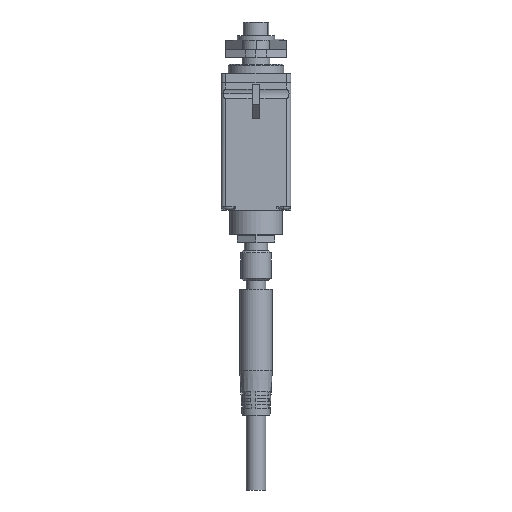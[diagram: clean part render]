
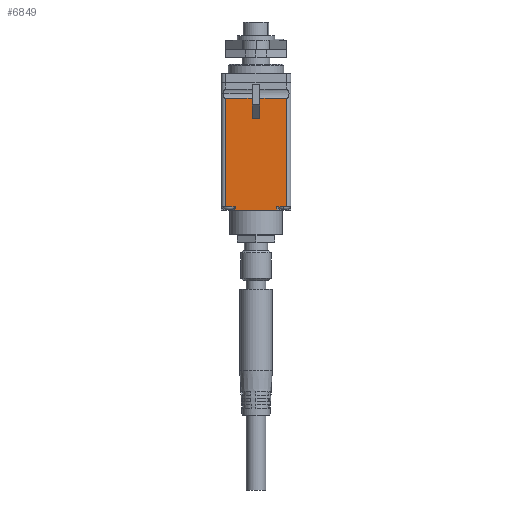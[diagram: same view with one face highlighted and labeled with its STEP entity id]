
A CAD part, front view. The second image highlights one B-rep face of the part: STEP entity #6849.
In plain terms, the highlighted planar face has unit normal (0, -1, 0).
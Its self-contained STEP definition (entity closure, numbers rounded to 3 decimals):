
#382 = EDGE_CURVE ( 'NONE', #575, #2903, #7121, .T. ) ;
#540 = DIRECTION ( 'NONE',  ( 1., 0., 0. ) ) ;
#575 = VERTEX_POINT ( 'NONE', #10025 ) ;
#715 = VERTEX_POINT ( 'NONE', #9221 ) ;
#799 = CARTESIAN_POINT ( 'NONE',  ( 0., -8.05, -29.4 ) ) ;
#861 = CARTESIAN_POINT ( 'NONE',  ( 4.5, -8.05, -29.4 ) ) ;
#936 = VERTEX_POINT ( 'NONE', #9973 ) ;
#1129 = LINE ( 'NONE', #799, #17902 ) ;
#1130 = EDGE_CURVE ( 'NONE', #16118, #10133, #16983, .T. ) ;
#1318 = VECTOR ( 'NONE', #11862, 1000. ) ;
#1411 = ORIENTED_EDGE ( 'NONE', *, *, #13768, .F. ) ;
#1470 = LINE ( 'NONE', #11180, #4260 ) ;
#1495 = VECTOR ( 'NONE', #15430, 1000. ) ;
#1550 = ORIENTED_EDGE ( 'NONE', *, *, #9988, .F. ) ;
#2252 = FACE_OUTER_BOUND ( 'NONE', #9694, .T. ) ;
#2263 = VERTEX_POINT ( 'NONE', #11733 ) ;
#2433 = CARTESIAN_POINT ( 'NONE',  ( 4.5, -8.05, -7.4 ) ) ;
#2903 = VERTEX_POINT ( 'NONE', #5059 ) ;
#3011 = DIRECTION ( 'NONE',  ( -1., 0., 0. ) ) ;
#3046 = EDGE_CURVE ( 'NONE', #715, #17188, #5490, .T. ) ;
#3076 = CARTESIAN_POINT ( 'NONE',  ( -0.85, -8.05, -9.8 ) ) ;
#3097 = VECTOR ( 'NONE', #9740, 1000. ) ;
#3112 = EDGE_CURVE ( 'NONE', #5051, #2263, #17145, .T. ) ;
#3113 = EDGE_CURVE ( 'NONE', #2903, #715, #12283, .T. ) ;
#3168 = LINE ( 'NONE', #11468, #3097 ) ;
#3404 = ORIENTED_EDGE ( 'NONE', *, *, #3113, .F. ) ;
#3782 = CARTESIAN_POINT ( 'NONE',  ( 0.85, -8.05, -5.38 ) ) ;
#3997 = EDGE_CURVE ( 'NONE', #5051, #12942, #1129, .T. ) ;
#4022 = DIRECTION ( 'NONE',  ( 1., 0., 0. ) ) ;
#4088 = CARTESIAN_POINT ( 'NONE',  ( -0.85, -8.05, -7.4 ) ) ;
#4260 = VECTOR ( 'NONE', #21101, 1000. ) ;
#5051 = VERTEX_POINT ( 'NONE', #14588 ) ;
#5059 = CARTESIAN_POINT ( 'NONE',  ( -6.5, -8.05, -5.38 ) ) ;
#5484 = DIRECTION ( 'NONE',  ( 0., 0., 1. ) ) ;
#5490 = LINE ( 'NONE', #4088, #1318 ) ;
#5812 = EDGE_CURVE ( 'NONE', #17188, #12153, #1470, .T. ) ;
#6005 = CARTESIAN_POINT ( 'NONE',  ( 0.85, -8.05, -9.8 ) ) ;
#6415 = ORIENTED_EDGE ( 'NONE', *, *, #1130, .F. ) ;
#6516 = LINE ( 'NONE', #14613, #13515 ) ;
#6671 = CARTESIAN_POINT ( 'NONE',  ( 4.5, -8.05, -28.7 ) ) ;
#6685 = EDGE_CURVE ( 'NONE', #12153, #16118, #16075, .T. ) ;
#6849 = ADVANCED_FACE ( 'NONE', ( #2252 ), #10554, .F. ) ;
#7077 = CARTESIAN_POINT ( 'NONE',  ( 6.5, -8.05, -5.38 ) ) ;
#7121 = LINE ( 'NONE', #13505, #1495 ) ;
#7669 = CARTESIAN_POINT ( 'NONE',  ( 0.85, -8.05, -7.4 ) ) ;
#7894 = EDGE_CURVE ( 'NONE', #10133, #936, #3168, .T. ) ;
#8822 = CARTESIAN_POINT ( 'NONE',  ( -7.5, -8.05, -7.4 ) ) ;
#8929 = DIRECTION ( 'NONE',  ( 0., 1., 0. ) ) ;
#9095 = DIRECTION ( 'NONE',  ( 1., 0., 0. ) ) ;
#9096 = ORIENTED_EDGE ( 'NONE', *, *, #7894, .F. ) ;
#9110 = ORIENTED_EDGE ( 'NONE', *, *, #18446, .F. ) ;
#9221 = CARTESIAN_POINT ( 'NONE',  ( -0.85, -8.05, -5.38 ) ) ;
#9554 = ORIENTED_EDGE ( 'NONE', *, *, #382, .F. ) ;
#9694 = EDGE_LOOP ( 'NONE', ( #1411, #1550, #9096, #6415, #13991, #11555, #14482, #3404, #9554, #9110, #19961, #13770 ) ) ;
#9740 = DIRECTION ( 'NONE',  ( 0., 0., -1. ) ) ;
#9973 = CARTESIAN_POINT ( 'NONE',  ( 6.5, -8.05, -28.7 ) ) ;
#9988 = EDGE_CURVE ( 'NONE', #936, #16510, #13032, .T. ) ;
#10025 = CARTESIAN_POINT ( 'NONE',  ( -6.5, -8.05, -28.7 ) ) ;
#10133 = VERTEX_POINT ( 'NONE', #7077 ) ;
#10151 = AXIS2_PLACEMENT_3D ( 'NONE', #8822, #8929, #5484 ) ;
#10554 = PLANE ( 'NONE',  #10151 ) ;
#11066 = DIRECTION ( 'NONE',  ( -1., 0., 0. ) ) ;
#11180 = CARTESIAN_POINT ( 'NONE',  ( -7.5, -8.05, -9.8 ) ) ;
#11468 = CARTESIAN_POINT ( 'NONE',  ( 6.5, -8.05, -7.4 ) ) ;
#11555 = ORIENTED_EDGE ( 'NONE', *, *, #5812, .F. ) ;
#11602 = VECTOR ( 'NONE', #3011, 1000. ) ;
#11660 = VECTOR ( 'NONE', #540, 1000. ) ;
#11733 = CARTESIAN_POINT ( 'NONE',  ( -4.5, -8.05, -28.7 ) ) ;
#11841 = VECTOR ( 'NONE', #4022, 1000. ) ;
#11862 = DIRECTION ( 'NONE',  ( 0., 0., -1. ) ) ;
#12115 = VECTOR ( 'NONE', #16897, 1000. ) ;
#12153 = VERTEX_POINT ( 'NONE', #6005 ) ;
#12283 = LINE ( 'NONE', #15522, #11660 ) ;
#12831 = CARTESIAN_POINT ( 'NONE',  ( -7.5, -8.05, -28.7 ) ) ;
#12942 = VERTEX_POINT ( 'NONE', #861 ) ;
#13032 = LINE ( 'NONE', #12831, #11602 ) ;
#13505 = CARTESIAN_POINT ( 'NONE',  ( -6.5, -8.05, -7.4 ) ) ;
#13515 = VECTOR ( 'NONE', #11066, 1000. ) ;
#13633 = CARTESIAN_POINT ( 'NONE',  ( -7.5, -8.05, -5.38 ) ) ;
#13768 = EDGE_CURVE ( 'NONE', #16510, #12942, #15371, .T. ) ;
#13770 = ORIENTED_EDGE ( 'NONE', *, *, #3997, .T. ) ;
#13991 = ORIENTED_EDGE ( 'NONE', *, *, #6685, .F. ) ;
#14256 = DIRECTION ( 'NONE',  ( 0., 0., 1. ) ) ;
#14482 = ORIENTED_EDGE ( 'NONE', *, *, #3046, .F. ) ;
#14588 = CARTESIAN_POINT ( 'NONE',  ( -4.5, -8.05, -29.4 ) ) ;
#14613 = CARTESIAN_POINT ( 'NONE',  ( -6.5, -8.05, -28.7 ) ) ;
#15371 = LINE ( 'NONE', #2433, #12115 ) ;
#15430 = DIRECTION ( 'NONE',  ( 0., 0., 1. ) ) ;
#15522 = CARTESIAN_POINT ( 'NONE',  ( -7.5, -8.05, -5.38 ) ) ;
#15651 = VECTOR ( 'NONE', #14256, 1000. ) ;
#16075 = LINE ( 'NONE', #7669, #15651 ) ;
#16118 = VERTEX_POINT ( 'NONE', #3782 ) ;
#16510 = VERTEX_POINT ( 'NONE', #6671 ) ;
#16897 = DIRECTION ( 'NONE',  ( 0., 0., -1. ) ) ;
#16983 = LINE ( 'NONE', #13633, #11841 ) ;
#17145 = LINE ( 'NONE', #18438, #20968 ) ;
#17188 = VERTEX_POINT ( 'NONE', #3076 ) ;
#17902 = VECTOR ( 'NONE', #9095, 1000. ) ;
#18438 = CARTESIAN_POINT ( 'NONE',  ( -4.5, -8.05, -7.4 ) ) ;
#18446 = EDGE_CURVE ( 'NONE', #2263, #575, #6516, .T. ) ;
#19961 = ORIENTED_EDGE ( 'NONE', *, *, #3112, .F. ) ;
#20382 = DIRECTION ( 'NONE',  ( 0., 0., 1. ) ) ;
#20968 = VECTOR ( 'NONE', #20382, 1000. ) ;
#21101 = DIRECTION ( 'NONE',  ( 1., 0., 0. ) ) ;
